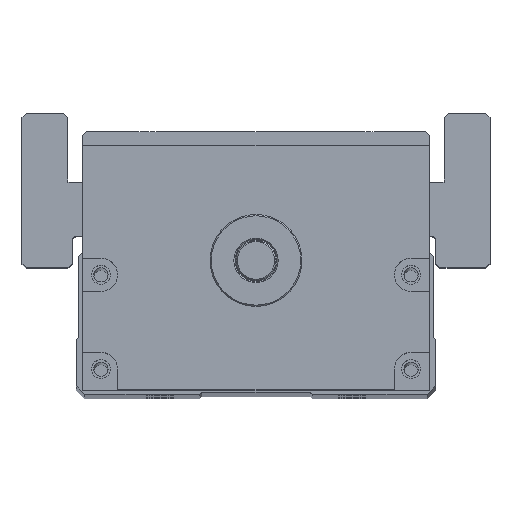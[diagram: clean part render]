
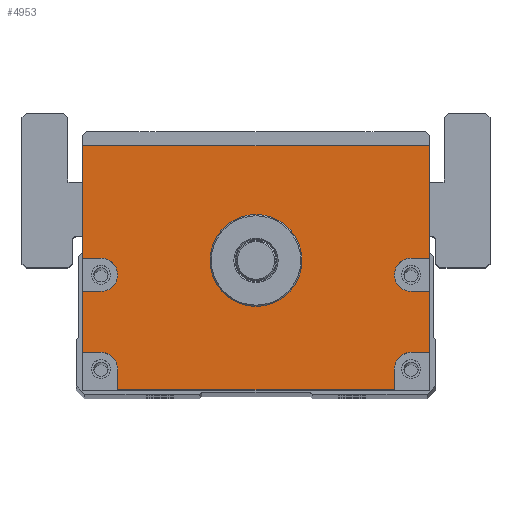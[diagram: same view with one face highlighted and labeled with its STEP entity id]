
A CAD part, top view. The second image highlights one B-rep face of the part: STEP entity #4953.
In plain terms, the highlighted planar face has unit normal (0, 0, 1).
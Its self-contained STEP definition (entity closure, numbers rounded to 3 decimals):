
#3543=FACE_BOUND('',#6645,.T.);
#3544=FACE_BOUND('',#6646,.T.);
#4049=CIRCLE('',#15205,11.);
#4060=CIRCLE('',#15219,4.);
#4061=CIRCLE('',#15220,4.);
#4062=CIRCLE('',#15221,4.);
#4063=CIRCLE('',#15222,4.);
#4953=ADVANCED_FACE('',(#3543,#3544),#5435,.T.);
#5435=PLANE('',#15223);
#6645=EDGE_LOOP('',(#9096,#9097,#9098,#9099,#9100,#9101,#9102,#9103,#9104,
#9105,#9106,#9107,#9108,#9109,#9110,#9111,#9112,#9113));
#6646=EDGE_LOOP('',(#9114));
#9096=ORIENTED_EDGE('',*,*,#12342,.F.);
#9097=ORIENTED_EDGE('',*,*,#12343,.T.);
#9098=ORIENTED_EDGE('',*,*,#12344,.F.);
#9099=ORIENTED_EDGE('',*,*,#12345,.F.);
#9100=ORIENTED_EDGE('',*,*,#12346,.F.);
#9101=ORIENTED_EDGE('',*,*,#12347,.T.);
#9102=ORIENTED_EDGE('',*,*,#12338,.T.);
#9103=ORIENTED_EDGE('',*,*,#12348,.T.);
#9104=ORIENTED_EDGE('',*,*,#12349,.F.);
#9105=ORIENTED_EDGE('',*,*,#12350,.F.);
#9106=ORIENTED_EDGE('',*,*,#12351,.F.);
#9107=ORIENTED_EDGE('',*,*,#12352,.T.);
#9108=ORIENTED_EDGE('',*,*,#12353,.F.);
#9109=ORIENTED_EDGE('',*,*,#12354,.F.);
#9110=ORIENTED_EDGE('',*,*,#12355,.F.);
#9111=ORIENTED_EDGE('',*,*,#12356,.T.);
#9112=ORIENTED_EDGE('',*,*,#12357,.F.);
#9113=ORIENTED_EDGE('',*,*,#12358,.F.);
#9114=ORIENTED_EDGE('',*,*,#12324,.T.);
#10890=VERTEX_POINT('',#22205);
#10903=VERTEX_POINT('',#22233);
#10904=VERTEX_POINT('',#22235);
#10907=VERTEX_POINT('',#22243);
#10908=VERTEX_POINT('',#22244);
#10909=VERTEX_POINT('',#22246);
#10910=VERTEX_POINT('',#22248);
#10911=VERTEX_POINT('',#22250);
#10912=VERTEX_POINT('',#22252);
#10913=VERTEX_POINT('',#22255);
#10914=VERTEX_POINT('',#22257);
#10915=VERTEX_POINT('',#22259);
#10916=VERTEX_POINT('',#22261);
#10917=VERTEX_POINT('',#22263);
#10918=VERTEX_POINT('',#22265);
#10919=VERTEX_POINT('',#22267);
#10920=VERTEX_POINT('',#22269);
#10921=VERTEX_POINT('',#22271);
#10922=VERTEX_POINT('',#22273);
#12324=EDGE_CURVE('',#10890,#10890,#4049,.T.);
#12338=EDGE_CURVE('',#10904,#10903,#13438,.T.);
#12342=EDGE_CURVE('',#10907,#10908,#13440,.T.);
#12343=EDGE_CURVE('',#10907,#10909,#13441,.T.);
#12344=EDGE_CURVE('',#10910,#10909,#13442,.T.);
#12345=EDGE_CURVE('',#10911,#10910,#4060,.T.);
#12346=EDGE_CURVE('',#10912,#10911,#13443,.T.);
#12347=EDGE_CURVE('',#10912,#10904,#13444,.T.);
#12348=EDGE_CURVE('',#10903,#10913,#13445,.T.);
#12349=EDGE_CURVE('',#10914,#10913,#13446,.T.);
#12350=EDGE_CURVE('',#10915,#10914,#4061,.T.);
#12351=EDGE_CURVE('',#10916,#10915,#13447,.T.);
#12352=EDGE_CURVE('',#10916,#10917,#13448,.T.);
#12353=EDGE_CURVE('',#10918,#10917,#13449,.T.);
#12354=EDGE_CURVE('',#10919,#10918,#4062,.T.);
#12355=EDGE_CURVE('',#10920,#10919,#13450,.T.);
#12356=EDGE_CURVE('',#10920,#10921,#13451,.T.);
#12357=EDGE_CURVE('',#10922,#10921,#13452,.T.);
#12358=EDGE_CURVE('',#10908,#10922,#4063,.T.);
#13438=LINE('',#22234,#14241);
#13440=LINE('',#22242,#14243);
#13441=LINE('',#22245,#14244);
#13442=LINE('',#22247,#14245);
#13443=LINE('',#22251,#14246);
#13444=LINE('',#22253,#14247);
#13445=LINE('',#22254,#14248);
#13446=LINE('',#22256,#14249);
#13447=LINE('',#22260,#14250);
#13448=LINE('',#22262,#14251);
#13449=LINE('',#22264,#14252);
#13450=LINE('',#22268,#14253);
#13451=LINE('',#22270,#14254);
#13452=LINE('',#22272,#14255);
#14241=VECTOR('',#17680,1.);
#14243=VECTOR('',#17688,1.);
#14244=VECTOR('',#17689,1.);
#14245=VECTOR('',#17690,1.);
#14246=VECTOR('',#17693,1.);
#14247=VECTOR('',#17694,1.);
#14248=VECTOR('',#17695,1.);
#14249=VECTOR('',#17696,1.);
#14250=VECTOR('',#17699,1.);
#14251=VECTOR('',#17700,1.);
#14252=VECTOR('',#17701,1.);
#14253=VECTOR('',#17704,1.);
#14254=VECTOR('',#17705,1.);
#14255=VECTOR('',#17706,1.);
#15205=AXIS2_PLACEMENT_3D('',#22204,#17653,#17654);
#15219=AXIS2_PLACEMENT_3D('',#22249,#17691,#17692);
#15220=AXIS2_PLACEMENT_3D('',#22258,#17697,#17698);
#15221=AXIS2_PLACEMENT_3D('',#22266,#17702,#17703);
#15222=AXIS2_PLACEMENT_3D('',#22274,#17707,#17708);
#15223=AXIS2_PLACEMENT_3D('',#22275,#17709,#17710);
#17653=DIRECTION('',(0.,0.,-1.));
#17654=DIRECTION('',(1.,0.,0.));
#17680=DIRECTION('',(-1.,0.,0.));
#17688=DIRECTION('',(-1.,0.,0.));
#17689=DIRECTION('',(0.,1.,0.));
#17690=DIRECTION('',(1.,0.,0.));
#17691=DIRECTION('',(0.,0.,1.));
#17692=DIRECTION('',(1.,0.,0.));
#17693=DIRECTION('',(-1.,0.,0.));
#17694=DIRECTION('',(0.,1.,0.));
#17695=DIRECTION('',(0.,-1.,0.));
#17696=DIRECTION('',(-1.,0.,0.));
#17697=DIRECTION('',(0.,0.,1.));
#17698=DIRECTION('',(1.,0.,0.));
#17699=DIRECTION('',(1.,0.,0.));
#17700=DIRECTION('',(0.,-1.,0.));
#17701=DIRECTION('',(-1.,0.,0.));
#17702=DIRECTION('',(0.,0.,1.));
#17703=DIRECTION('',(1.,0.,0.));
#17704=DIRECTION('',(0.,1.,0.));
#17705=DIRECTION('',(1.,0.,0.));
#17706=DIRECTION('',(0.,-1.,0.));
#17707=DIRECTION('',(0.,0.,1.));
#17708=DIRECTION('',(1.,0.,0.));
#17709=DIRECTION('',(0.,0.,1.));
#17710=DIRECTION('',(1.,0.,0.));
#22204=CARTESIAN_POINT('',(300.,0.,482.5));
#22205=CARTESIAN_POINT('',(311.,0.,482.5));
#22233=CARTESIAN_POINT('',(258.5,27.5,482.5));
#22234=CARTESIAN_POINT('',(341.5,27.5,482.5));
#22235=CARTESIAN_POINT('',(341.5,27.5,482.5));
#22242=CARTESIAN_POINT('',(341.5,-22.,482.5));
#22243=CARTESIAN_POINT('',(341.5,-22.,482.5));
#22244=CARTESIAN_POINT('',(337.115,-22.,482.5));
#22245=CARTESIAN_POINT('',(341.5,-31.,482.5));
#22246=CARTESIAN_POINT('',(341.5,-7.431,482.5));
#22247=CARTESIAN_POINT('',(341.5,-7.431,482.5));
#22248=CARTESIAN_POINT('',(337.115,-7.431,482.5));
#22249=CARTESIAN_POINT('',(337.115,-3.431,482.5));
#22250=CARTESIAN_POINT('',(337.115,0.569,482.5));
#22251=CARTESIAN_POINT('',(341.5,0.569,482.5));
#22252=CARTESIAN_POINT('',(341.5,0.569,482.5));
#22253=CARTESIAN_POINT('',(341.5,-31.,482.5));
#22254=CARTESIAN_POINT('',(258.5,27.5,482.5));
#22255=CARTESIAN_POINT('',(258.5,0.569,482.5));
#22256=CARTESIAN_POINT('',(341.5,0.569,482.5));
#22257=CARTESIAN_POINT('',(262.885,0.569,482.5));
#22258=CARTESIAN_POINT('',(262.885,-3.431,482.5));
#22259=CARTESIAN_POINT('',(262.885,-7.431,482.5));
#22260=CARTESIAN_POINT('',(341.5,-7.431,482.5));
#22261=CARTESIAN_POINT('',(258.5,-7.431,482.5));
#22262=CARTESIAN_POINT('',(258.5,27.5,482.5));
#22263=CARTESIAN_POINT('',(258.5,-22.,482.5));
#22264=CARTESIAN_POINT('',(341.5,-22.,482.5));
#22265=CARTESIAN_POINT('',(262.885,-22.,482.5));
#22266=CARTESIAN_POINT('',(262.885,-26.,482.5));
#22267=CARTESIAN_POINT('',(266.885,-26.,482.5));
#22268=CARTESIAN_POINT('',(266.885,-31.,482.5));
#22269=CARTESIAN_POINT('',(266.885,-31.,482.5));
#22270=CARTESIAN_POINT('',(258.5,-31.,482.5));
#22271=CARTESIAN_POINT('',(333.115,-31.,482.5));
#22272=CARTESIAN_POINT('',(333.115,-31.,482.5));
#22273=CARTESIAN_POINT('',(333.115,-26.,482.5));
#22274=CARTESIAN_POINT('',(337.115,-26.,482.5));
#22275=CARTESIAN_POINT('',(341.5,-31.,482.5));
